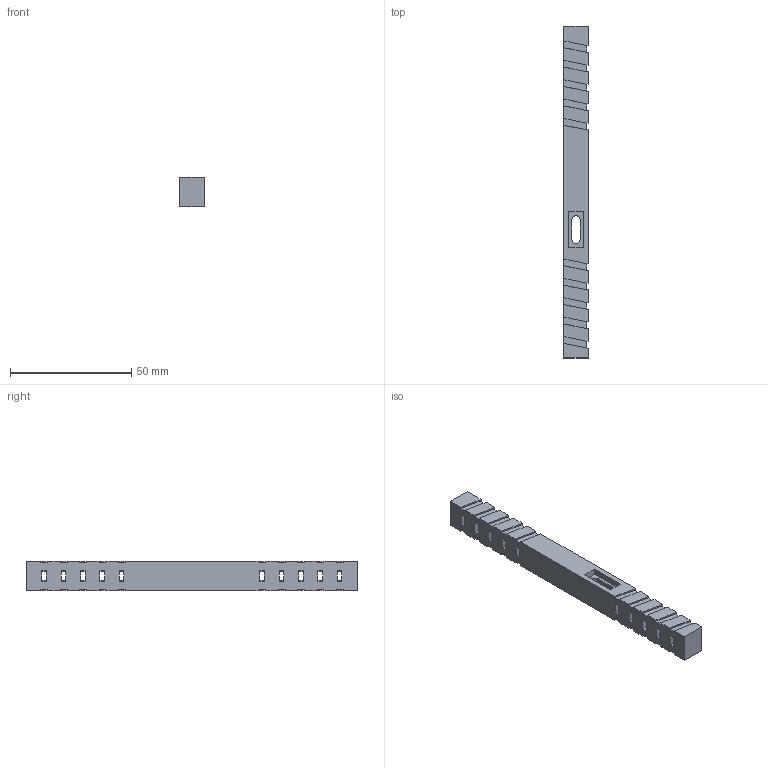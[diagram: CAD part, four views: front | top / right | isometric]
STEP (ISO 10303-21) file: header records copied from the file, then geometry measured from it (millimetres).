
FILE_DESCRIPTION(('Open CASCADE Model'),'2;1');
FILE_NAME('Open CASCADE Shape Model','2026-11-12T20:35:42',('Author'),( 'Open CASCADE'),'Open CASCADE STEP processor 7.9','Open CASCADE 7.9' ,'Unknown');
FILE_SCHEMA(('AUTOMOTIVE_DESIGN { 1 0 10303 214 1 1 1 1 }'));
Length unit declared in the file: millimetre
Products named in the file (1): Open CASCADE STEP translator 7.9 6
Bounding box: 10 x 137 x 12 mm (x, y, z)
Volume: 14640.2 mm3; surface area: 7780.1 mm2
Topology: 1 solids, 1 shells, 245 faces, 696 edges, 444 vertices
Faces by surface type: plane 243, cylinder 2
Entity records: 16816 total; most frequent: CARTESIAN_POINT 2778, DIRECTION 2584, LINE 2080, VECTOR 2080, ORIENTED_EDGE 1392, PCURVE 1392, DEFINITIONAL_REPRESENTATION 1392, EDGE_CURVE 696
